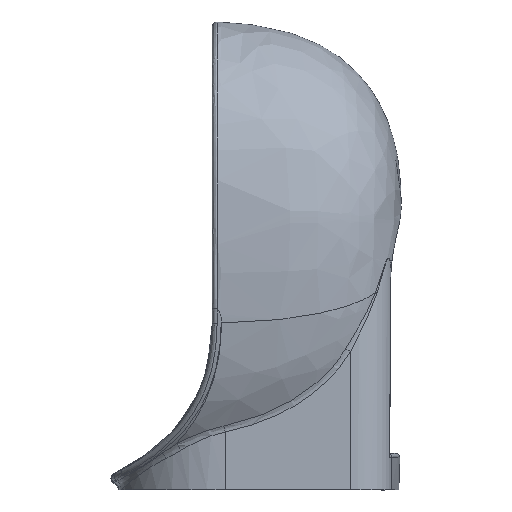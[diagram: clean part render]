
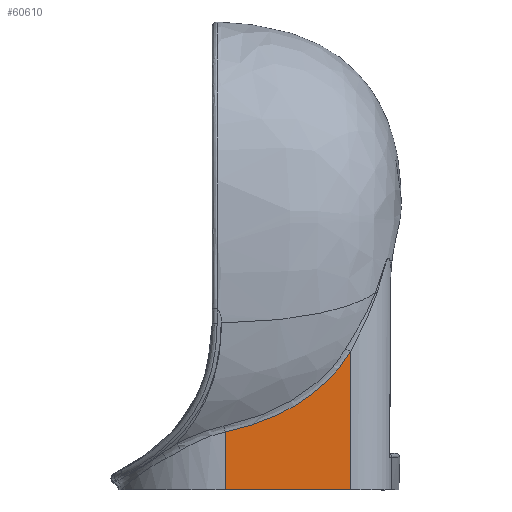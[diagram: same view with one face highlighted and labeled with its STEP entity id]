
A CAD part, left-side view. The second image highlights one B-rep face of the part: STEP entity #60610.
In plain terms, the highlighted planar face has unit normal (-1, 0, 0).
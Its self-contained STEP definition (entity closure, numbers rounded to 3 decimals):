
#2374 = EDGE_CURVE ( 'NONE', #59218, #48520, #4938, .T. ) ;
#4015 = CARTESIAN_POINT ( 'NONE',  ( 370., -69.913, 87.243 ) ) ;
#4938 = B_SPLINE_CURVE_WITH_KNOTS ( 'NONE', 3,
 ( #15374, #66245, #24753, #30426, #30750, #20393, #65918, #5323, #35761, #64928, #20067, #5001, #19081, #59887, #40459, #35433, #25084, #60878, #19401, #4015, #14717, #34446, #54871, #44830, #25414, #39790, #14381, #34774 ),
 .UNSPECIFIED., .F., .F.,
 ( 4, 2, 2, 2, 2, 2, 2, 2, 2, 2, 2, 2, 2, 4 ),
 ( 0., 0.012, 0.023, 0.046, 0.058, 0.064, 0.07, 0.093, 0.116, 0.128, 0.134, 0.139, 0.163, 0.186 ),
 .UNSPECIFIED. ) ;
#5001 = CARTESIAN_POINT ( 'NONE',  ( 370., -124.967, 119.412 ) ) ;
#5323 = CARTESIAN_POINT ( 'NONE',  ( 370., -136.863, 129.571 ) ) ;
#7271 = CARTESIAN_POINT ( 'NONE',  ( 370., -168.69, 168.583 ) ) ;
#8346 = FACE_OUTER_BOUND ( 'NONE', #33530, .T. ) ;
#12053 = VECTOR ( 'NONE', #32620, 1000. ) ;
#12621 = EDGE_CURVE ( 'NONE', #27121, #41322, #31658, .T. ) ;
#14381 = CARTESIAN_POINT ( 'NONE',  ( 370., -23.534, 72.33 ) ) ;
#14672 = PLANE ( 'NONE',  #32630 ) ;
#14717 = CARTESIAN_POINT ( 'NONE',  ( 370., -68.113, 86.495 ) ) ;
#15374 = CARTESIAN_POINT ( 'NONE',  ( 370., -168.69, 168.583 ) ) ;
#19081 = CARTESIAN_POINT ( 'NONE',  ( 370., -123.432, 118.207 ) ) ;
#19401 = CARTESIAN_POINT ( 'NONE',  ( 370., -75.28, 89.544 ) ) ;
#20067 = CARTESIAN_POINT ( 'NONE',  ( 370., -128.008, 121.87 ) ) ;
#20393 = CARTESIAN_POINT ( 'NONE',  ( 370., -150.487, 143.382 ) ) ;
#21626 = DIRECTION ( 'NONE',  ( 0., -1., 0. ) ) ;
#21769 = VECTOR ( 'NONE', #24498, 1000. ) ;
#22259 = LINE ( 'NONE', #42658, #12053 ) ;
#24498 = DIRECTION ( 'NONE',  ( 0., 0., -1. ) ) ;
#24753 = CARTESIAN_POINT ( 'NONE',  ( 370., -164.537, 161.939 ) ) ;
#24987 = CARTESIAN_POINT ( 'NONE',  ( 370., -168.69, 0. ) ) ;
#25084 = CARTESIAN_POINT ( 'NONE',  ( 370., -89.279, 96.218 ) ) ;
#25414 = CARTESIAN_POINT ( 'NONE',  ( 370., -46.113, 78.438 ) ) ;
#26107 = ORIENTED_EDGE ( 'NONE', *, *, #29850, .T. ) ;
#27121 = VERTEX_POINT ( 'NONE', #44950 ) ;
#29189 = CARTESIAN_POINT ( 'NONE',  ( 370., -168.69, 7.178 ) ) ;
#29850 = EDGE_CURVE ( 'NONE', #48520, #27121, #22259, .T. ) ;
#30426 = CARTESIAN_POINT ( 'NONE',  ( 370., -160.084, 155.555 ) ) ;
#30750 = CARTESIAN_POINT ( 'NONE',  ( 370., -157.758, 152.449 ) ) ;
#31658 = LINE ( 'NONE', #50764, #41006 ) ;
#32620 = DIRECTION ( 'NONE',  ( 0., 0., -1. ) ) ;
#32630 = AXIS2_PLACEMENT_3D ( 'NONE', #49807, #44789, #40083 ) ;
#33530 = EDGE_LOOP ( 'NONE', ( #57642, #58828, #26107, #53890 ) ) ;
#34446 = CARTESIAN_POINT ( 'NONE',  ( 370., -64.491, 85.036 ) ) ;
#34774 = CARTESIAN_POINT ( 'NONE',  ( 370., -15.868, 70.775 ) ) ;
#35433 = CARTESIAN_POINT ( 'NONE',  ( 370., -96.076, 99.905 ) ) ;
#35761 = CARTESIAN_POINT ( 'NONE',  ( 370., -133.977, 126.948 ) ) ;
#39790 = CARTESIAN_POINT ( 'NONE',  ( 370., -31.118, 74.166 ) ) ;
#40057 = EDGE_CURVE ( 'NONE', #59218, #41322, #54616, .T. ) ;
#40083 = DIRECTION ( 'NONE',  ( 0., 0., -1. ) ) ;
#40459 = CARTESIAN_POINT ( 'NONE',  ( 370., -109.281, 107.946 ) ) ;
#41006 = VECTOR ( 'NONE', #21626, 1000. ) ;
#41322 = VERTEX_POINT ( 'NONE', #24987 ) ;
#42658 = CARTESIAN_POINT ( 'NONE',  ( 370., -15.868, 7.178 ) ) ;
#44789 = DIRECTION ( 'NONE',  ( 1., 0., 0. ) ) ;
#44830 = CARTESIAN_POINT ( 'NONE',  ( 370., -53.523, 80.874 ) ) ;
#44950 = CARTESIAN_POINT ( 'NONE',  ( 370., -15.868, 0. ) ) ;
#45136 = CARTESIAN_POINT ( 'NONE',  ( 370., -15.868, 70.775 ) ) ;
#48520 = VERTEX_POINT ( 'NONE', #45136 ) ;
#49807 = CARTESIAN_POINT ( 'NONE',  ( 370., -168.69, 7.178 ) ) ;
#50764 = CARTESIAN_POINT ( 'NONE',  ( 370., -168.69, 0. ) ) ;
#53890 = ORIENTED_EDGE ( 'NONE', *, *, #12621, .T. ) ;
#54616 = LINE ( 'NONE', #29189, #21769 ) ;
#54871 = CARTESIAN_POINT ( 'NONE',  ( 370., -62.668, 84.325 ) ) ;
#57642 = ORIENTED_EDGE ( 'NONE', *, *, #40057, .F. ) ;
#58828 = ORIENTED_EDGE ( 'NONE', *, *, #2374, .T. ) ;
#59218 = VERTEX_POINT ( 'NONE', #7271 ) ;
#59887 = CARTESIAN_POINT ( 'NONE',  ( 370., -115.691, 112.3 ) ) ;
#60610 = ADVANCED_FACE ( 'NONE', ( #8346 ), #14672, .F. ) ;
#60878 = CARTESIAN_POINT ( 'NONE',  ( 370., -78.814, 91.154 ) ) ;
#64928 = CARTESIAN_POINT ( 'NONE',  ( 370., -129.517, 123.126 ) ) ;
#65918 = CARTESIAN_POINT ( 'NONE',  ( 370., -145.253, 137.672 ) ) ;
#66245 = CARTESIAN_POINT ( 'NONE',  ( 370., -166.663, 165.218 ) ) ;
